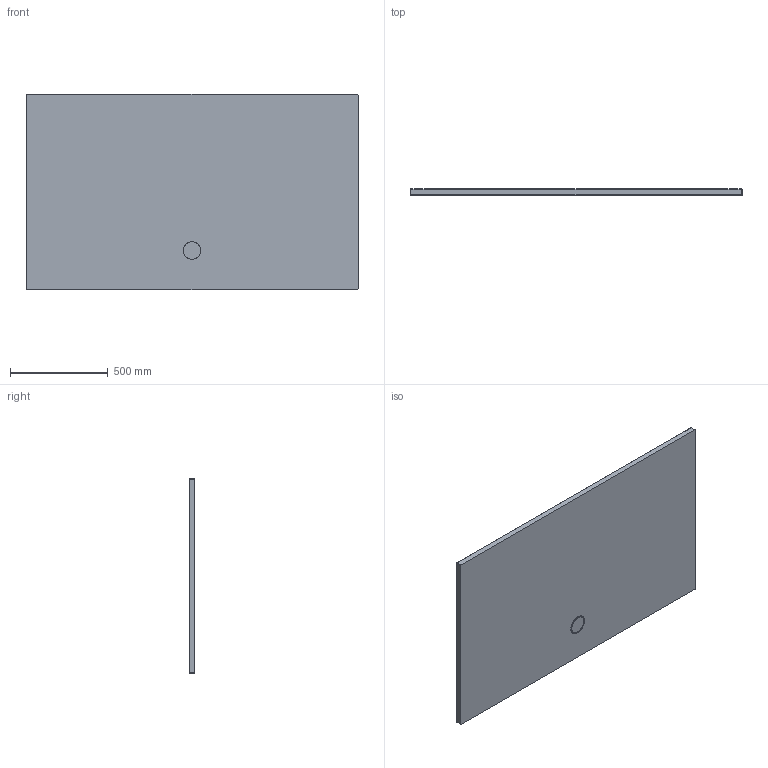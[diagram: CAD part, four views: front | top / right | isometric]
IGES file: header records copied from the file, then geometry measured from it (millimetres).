
Start section: SolidWorks IGES file using analytic representation for surfaces
Global section: file name: D:\Users\M.Szymanski\Desktop\B-M_Space\B_M_100x170x1,5.IGS; native system: SolidWorks 2011; preprocessor: SolidWorks 2011; author: M.Szymanski; date: 180216.070639; units: millimetre
Bounding box: 1700 x 30 x 1000 mm (x, y, z)
Surface area: 3574466.3 mm2 (no closed solid volume)
Topology: 0 solids, 0 shells, 61 faces, 739 edges, 736 vertices
Faces by surface type: bspline 39, revolution 22
